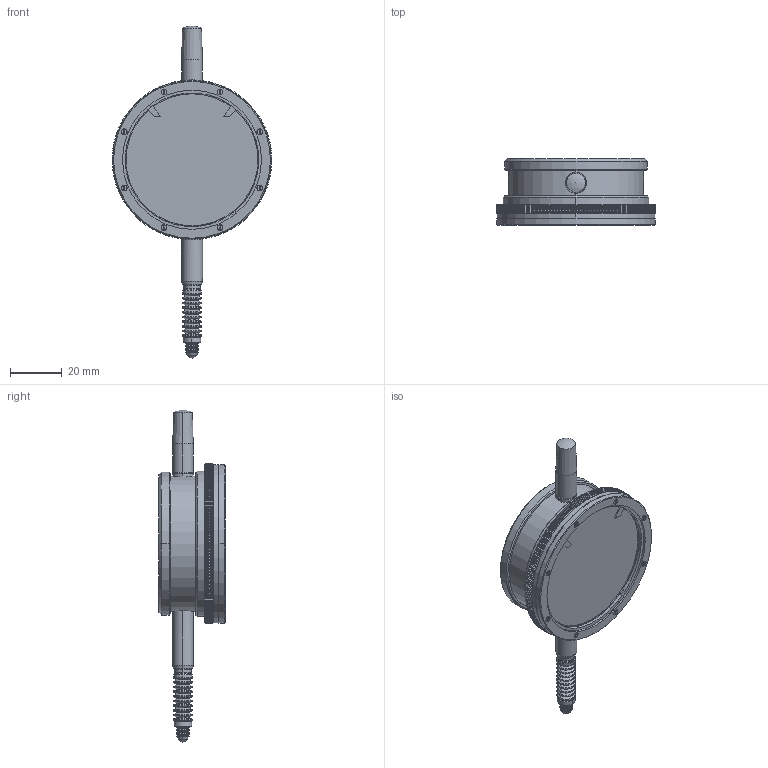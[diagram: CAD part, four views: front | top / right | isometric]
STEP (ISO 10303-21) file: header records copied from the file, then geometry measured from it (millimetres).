
FILE_DESCRIPTION(('STEP AP214'),'1');
FILE_NAME('SI-90W.STP','2016-12-01T08:44:50',(' '),(' '),'Spatial InterOp 3D',' ',' ');
FILE_SCHEMA(('automotive_design'));
Length unit declared in the file: millimetre
Products named in the file (2): 1; 2
Bounding box: 61.5 x 25.55 x 127.8 mm (x, y, z)
Volume: 21435.9 mm3; surface area: 27170.3 mm2
Topology: 2 solids, 17 shells, 2164 faces, 4950 edges, 2866 vertices
Faces by surface type: plane 1203, cone 574, cylinder 283, torus 80, sphere 11, bspline 7, revolution 6
Entity records: 63290 total; most frequent: CARTESIAN_POINT 20610, ORIENTED_EDGE 9852, DIRECTION 8356, EDGE_CURVE 4926, AXIS2_PLACEMENT_3D 3426, VERTEX_POINT 2866, EDGE_LOOP 2262, ADVANCED_FACE 2164
